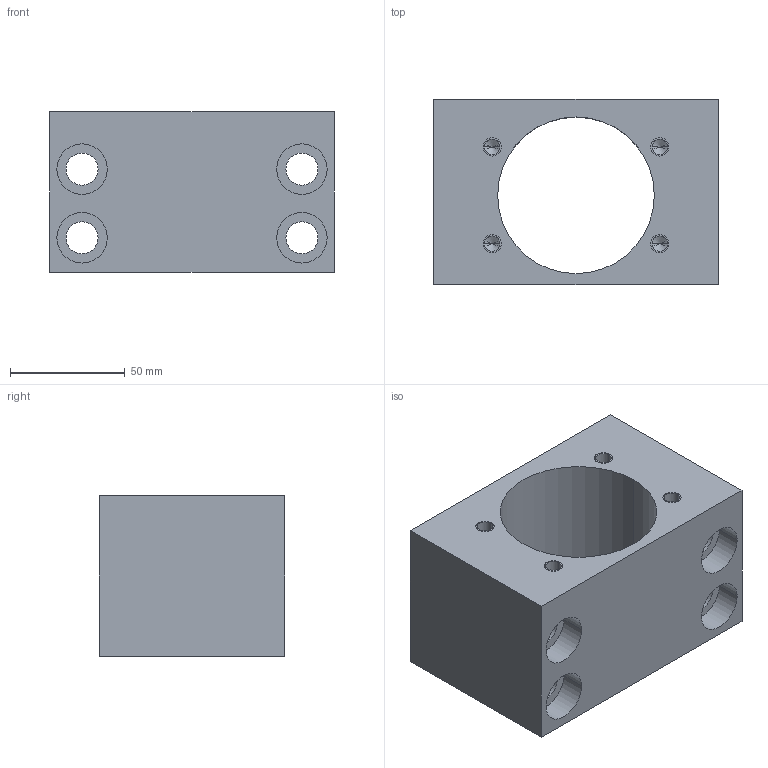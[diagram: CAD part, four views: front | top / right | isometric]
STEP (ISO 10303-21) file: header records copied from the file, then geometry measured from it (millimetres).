
FILE_DESCRIPTION((''),'2;1');
FILE_NAME('NH32E','2020-04-10T',('Administrator'),(''),'PRO/ENGINEER BY PARAMETRIC TECHNOLOGY CORPORATION, 2010280','PRO/ENGINEER BY PARAMETRIC TECHNOLOGY CORPORATION, 2010280','');
FILE_SCHEMA(('CONFIG_CONTROL_DESIGN'));
Length unit declared in the file: millimetre
Products named in the file (1): NH32E
Bounding box: 124 x 81 x 70 mm (x, y, z)
Volume: 382971.9 mm3; surface area: 74069.4 mm2
Topology: 1 solids, 5 shells, 56 faces, 138 edges, 88 vertices
Faces by surface type: cylinder 34, plane 14, cone 8
Entity records: 1697 total; most frequent: DIRECTION 320, CARTESIAN_POINT 275, ORIENTED_EDGE 244, AXIS2_PLACEMENT_3D 133, EDGE_CURVE 130, VERTEX_POINT 88, EDGE_LOOP 78, CIRCLE 76
